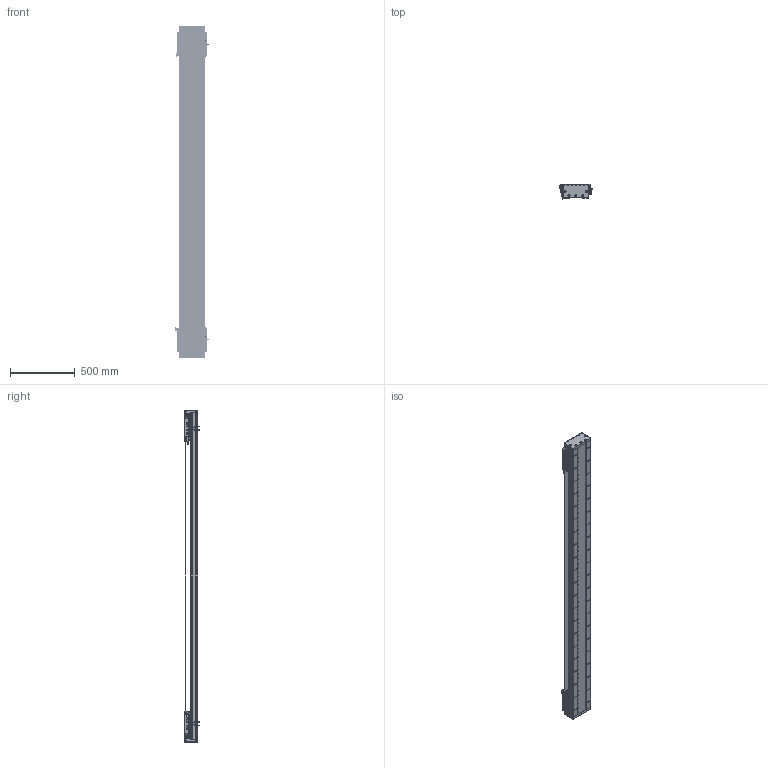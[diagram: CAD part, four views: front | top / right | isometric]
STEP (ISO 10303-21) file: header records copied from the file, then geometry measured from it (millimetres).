
FILE_DESCRIPTION (( 'STEP AP203' ), '1' );
FILE_NAME ('DA-C195-2-C2-T2060-C010-0.2 眻盄萇儂.STEP', '2025-08-14T02:08:57', ( '' ), ( '' ), 'SwSTEP 2.0', 'SolidWorks 2019', '' );
FILE_SCHEMA (( 'CONFIG_CONTROL_DESIGN' ));
Length unit declared in the file: millimetre
Products named in the file (19): DA195詩湍裔啣-1; DA195詩湍嶺輸-1; DKW-KGZ-ZJ-00 中间光电开关支架-1; LMT黍杅芛-1; DKW168-HXJ-ZJ-00 笢潔滅袉砎蝶-1; IU-CU195-L 菁釱絳寢-1; DA195詩湍郪璃-1; PM-Y65嫖萇羲壽郪璃-1; 葩璃 DA95-GT-T-00-1; DA-C195-GD-DB-H-00 傷啣-1; DA-C195-2-C2-T2060-C010-0.2 眻盄萇儂; DA195詩湍菜輸-1; MS200 棠掑喜S315-T1740-1; IU-CU195-L-00 菁釱(L2520); CU195-C2賑輸-俋楷-1; PM-T45ㄗ侂狟ㄘ-1; DA165-GYP-00 光电感应片(默认)-1; DA95-HXJ-00 遣喳砎蝶-1; DKW-GYP-ZJ-00 笢潔嫖萇覜茼え-1
Assembly tree (37 placements, depth 3):
  DA-C195-2-C2-T2060-C010-0.2 眻盄萇儂
    DA195詩湍郪璃-1
      DA195詩湍菜輸-1  x2
      DA195詩湍裔啣-1
      DA195詩湍嶺輸-1  x2
      DA95-HXJ-00 遣喳砎蝶-1  x8
      DA-C195-GD-DB-H-00 傷啣-1  x2
    IU-CU195-L 菁釱絳寢-1
      IU-CU195-L-00 菁釱(L2520)
      葩璃 DA95-GT-T-00-1  x4
    LMT黍杅芛-1  x2
    MS200 棠掑喜S315-T1740-1
    PM-T45ㄗ侂狟ㄘ-1  x4
    DA165-GYP-00 光电感应片(默认)-1  x2
    PM-Y65嫖萇羲壽郪璃-1
    DKW168-HXJ-ZJ-00 笢潔滅袉砎蝶-1
    DKW-GYP-ZJ-00 笢潔嫖萇覜茼え-1
    DKW-KGZ-ZJ-00 中间光电开关支架-1
    CU195-C2賑輸-俋楷-1  x2
Bounding box: 258.2 x 115.45 x 2560 mm (x, y, z)
Volume: 15960186 mm3; surface area: 4625853.4 mm2
Topology: 114 solids, 242 shells, 6975 faces, 18455 edges, 11473 vertices
Faces by surface type: cylinder 3268, plane 2623, cone 916, torus 88, sphere 72, bspline 8
Entity records: 149213 total; most frequent: CARTESIAN_POINT 39703, ORIENTED_EDGE 22742, DIRECTION 21890, EDGE_CURVE 11371, AXIS2_PLACEMENT_3D 8061, VERTEX_POINT 7360, LINE 5768, VECTOR 5768
